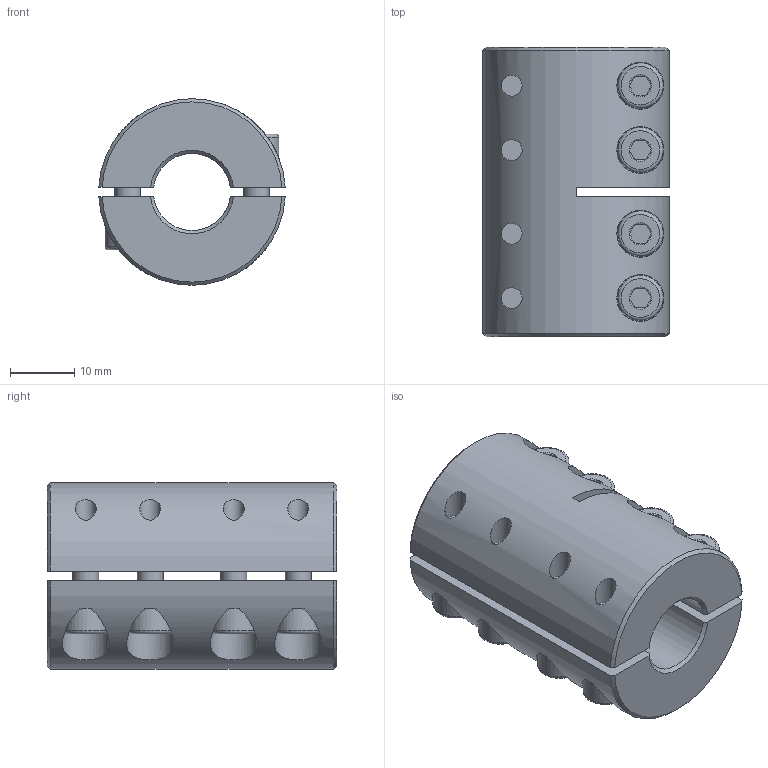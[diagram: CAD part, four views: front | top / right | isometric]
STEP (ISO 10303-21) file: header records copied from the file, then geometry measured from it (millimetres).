
FILE_DESCRIPTION( ( 'Unknown' ), '1' );
FILE_NAME( 'K:/Konstruktion/Fertigungszeichnungen/Schalenkupplung/KBST-G/KBST-G-12.stp', 'Unknown', ( 'Unknown' ), ( 'Unknown' ), 'PSStep 16.0.42', 'Unknown', ' ' );
FILE_SCHEMA( ( 'AUTOMOTIVE_DESIGN { 1 0 10303 214 1 1 1 1 }' ) );
Length unit declared in the file: millimetre
Products named in the file (4): Assem1; KBST-G-12; ISO EN DIN 4762 M4x12
Assembly tree (10 placements, depth 2):
  Assem1
    KBST-G-12
    KBST-G-12
    ISO EN DIN 4762 M4x12  x8
Bounding box: 28.96 x 45 x 29 mm (x, y, z)
Volume: 22523.2 mm3; surface area: 12699.8 mm2
Topology: 10 solids, 10 shells, 260 faces, 500 edges, 300 vertices
Faces by surface type: plane 120, cone 64, cylinder 60, torus 16
Full cylindrical faces by diameter (mm): 3.242 x8, 3.5 x8, 4 x16, 4.2 x8, 7 x8
Entity records: 4026 total; most frequent: CARTESIAN_POINT 1392, DIRECTION 390, ORIENTED_EDGE 326, AXIS2_PLACEMENT_3D 169, EDGE_CURVE 163, EDGE_LOOP 152, VERTEX_POINT 119, FACE_OUTER_BOUND 107
